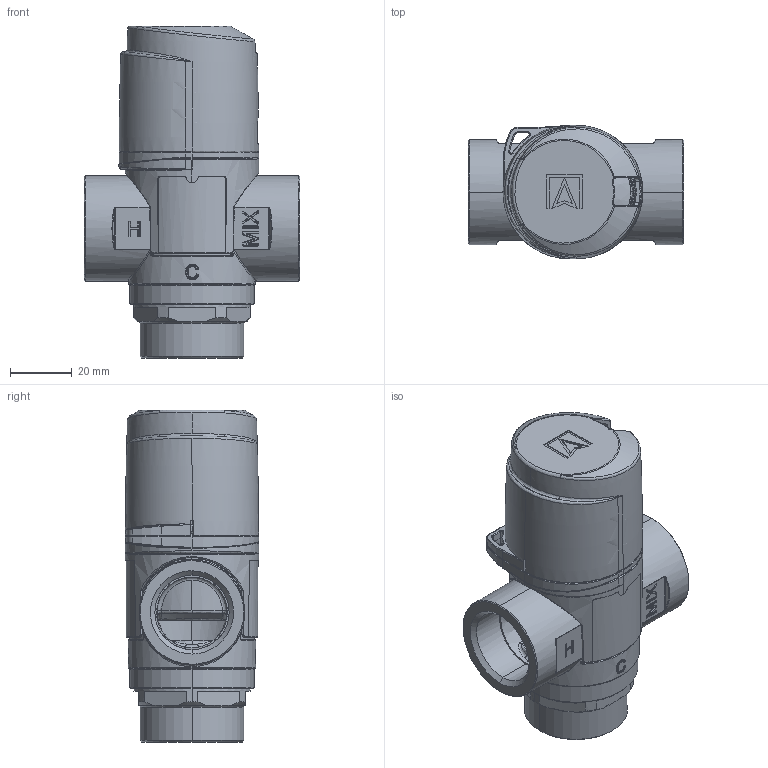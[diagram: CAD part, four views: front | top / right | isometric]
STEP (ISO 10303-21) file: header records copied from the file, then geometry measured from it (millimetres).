
FILE_DESCRIPTION (( 'STEP AP214' ), '1' );
FILE_NAME ('ATM333.STEP', '2022-02-08T11:14:16', ( '' ), ( '' ), 'SwSTEP 2.0', 'SolidWorks 2021', '' );
FILE_SCHEMA (( 'AUTOMOTIVE_DESIGN' ));
Length unit declared in the file: millimetre
Products named in the file (7): 67080; 67082; 41182; ATM333; 67081; 67079; 21781
Assembly tree (6 placements, depth 2):
  ATM333
    41182
    67082
    67079
    21781
    67081
    67080
Bounding box: 70 x 43.4 x 107.75 mm (x, y, z)
Volume: 62273.3 mm3; surface area: 60560 mm2
Topology: 5 solids, 458 shells, 2539 faces, 7416 edges, 5143 vertices
Faces by surface type: bspline 1071, cylinder 824, plane 483, cone 151, torus 10
Entity records: 137195 total; most frequent: CARTESIAN_POINT 62433, ORIENTED_EDGE 12178, DIRECTION 10024, EDGE_CURVE 7198, VERTEX_POINT 5143, AXIS2_PLACEMENT_3D 3904, EDGE_LOOP 2598, ADVANCED_FACE 2539
